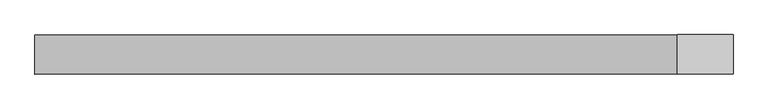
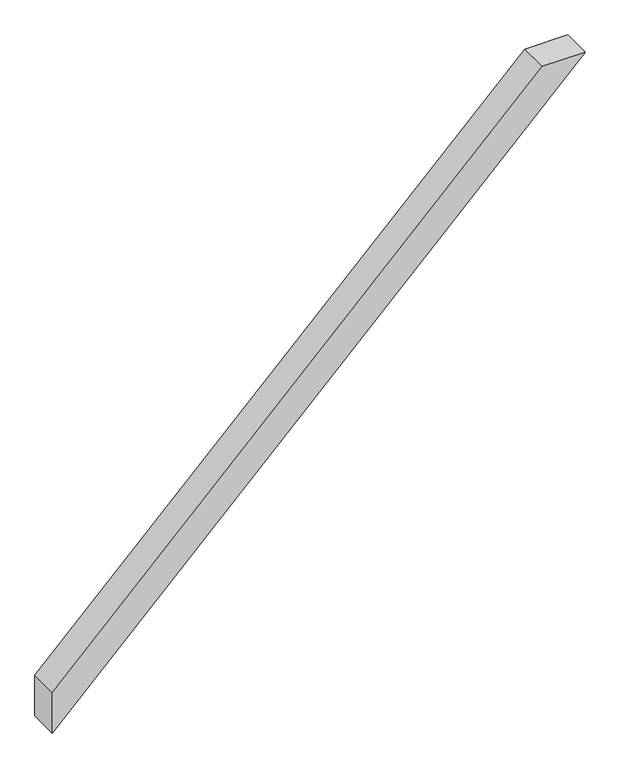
"""IFC4 building model written with IfcOpenShell, lengths in millimetres: proxy geometry, Modelos genéricos 138 : Modelos genéricos 23."""

from ifc_helpers import new_model, si_unit, frame, origin, place, context, project, spatial, polyline, outline, extrude, source, transform, mapped, element, save


def generic_models_7443e431(model_context):
    return source(origin(), model_context, "Body", "SweptSolid", [
        extrude(outline(polyline([(4220.0, 10343.2371907), (4220.0, 10258.384377), (3244.8528137, 9283.2371907), (3160.0, 9283.2371907), (4220.0, 10343.2371907)])), frame((0.0, 1918.6238165, 0.0), z_axis=(0.0, 1.0, 0.0), x_axis=(0.0, 0.0, 1.0)), (0.0, 0.0, 1.0), 60.0),
    ])


if __name__ == "__main__":
    model = new_model("IFC4")
    model_context = context("Model", 3, world=origin())
    ifc_project = project(units=[si_unit("LENGTHUNIT", "METRE", prefix="MILLI")], contexts=[model_context])
    site = spatial("IfcSite", under=ifc_project)
    building = spatial("IfcBuilding", under=site)
    placement = place(None, origin())
    generic_models_shape = generic_models_7443e431(model_context)
    element("IfcBuildingElementProxy", 1, Name="Modelos genéricos 138 : Modelos genéricos 23", ObjectType="Modelos genéricos 138 : Modelos genéricos 23", at=placement, inside=building, context=model_context, shape_type="MappedRepresentation", body=[
        mapped(generic_models_shape, transform((0.0, 0.0, 0.0), x_axis=(1.0, 0.0, 0.0), y_axis=(0.0, 1.0, 0.0), z_axis=(0.0, 0.0, 1.0))),
    ])
    save(model, "model.ifc")
